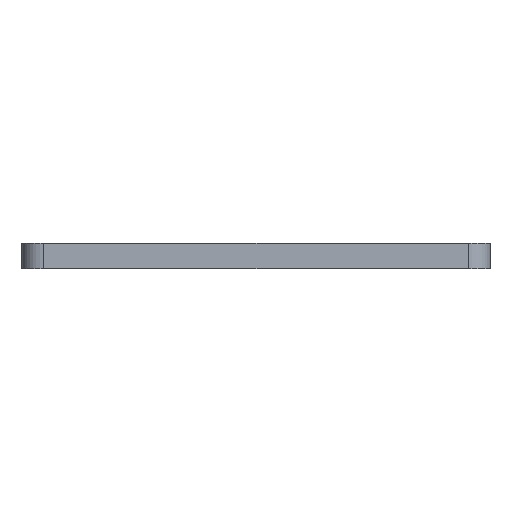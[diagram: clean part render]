
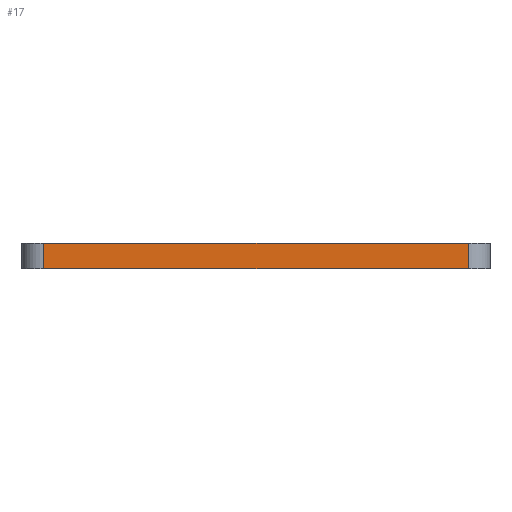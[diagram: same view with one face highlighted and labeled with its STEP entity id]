
A CAD part, left-side view. The second image highlights one B-rep face of the part: STEP entity #17.
In plain terms, the highlighted planar face has unit normal (-1, 0, 0).
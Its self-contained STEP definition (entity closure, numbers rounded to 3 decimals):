
#17 = ADVANCED_FACE('',(#18),#32,.F.);
#18 = FACE_BOUND('',#19,.F.);
#19 = EDGE_LOOP('',(#20,#55,#83,#111));
#20 = ORIENTED_EDGE('',*,*,#21,.F.);
#21 = EDGE_CURVE('',#22,#24,#26,.T.);
#22 = VERTEX_POINT('',#23);
#23 = CARTESIAN_POINT('',(0.,-62.,3.5));
#24 = VERTEX_POINT('',#25);
#25 = CARTESIAN_POINT('',(0.,-3.,3.5));
#26 = SURFACE_CURVE('',#27,(#31,#43),.PCURVE_S1.);
#27 = LINE('',#28,#29);
#28 = CARTESIAN_POINT('',(0.,-65.,3.5));
#29 = VECTOR('',#30,1.);
#30 = DIRECTION('',(0.,1.,0.));
#31 = PCURVE('',#32,#37);
#32 = PLANE('',#33);
#33 = AXIS2_PLACEMENT_3D('',#34,#35,#36);
#34 = CARTESIAN_POINT('',(0.,-65.,0.));
#35 = DIRECTION('',(1.,0.,0.));
#36 = DIRECTION('',(0.,0.,1.));
#37 = DEFINITIONAL_REPRESENTATION('',(#38),#42);
#38 = LINE('',#39,#40);
#39 = CARTESIAN_POINT('',(3.5,0.));
#40 = VECTOR('',#41,1.);
#41 = DIRECTION('',(0.,-1.));
#42 = ( GEOMETRIC_REPRESENTATION_CONTEXT(2) 
PARAMETRIC_REPRESENTATION_CONTEXT() REPRESENTATION_CONTEXT('2D SPACE',''
  ) );
#43 = PCURVE('',#44,#49);
#44 = PLANE('',#45);
#45 = AXIS2_PLACEMENT_3D('',#46,#47,#48);
#46 = CARTESIAN_POINT('',(0.,-65.,3.5));
#47 = DIRECTION('',(0.,0.,1.));
#48 = DIRECTION('',(1.,0.,0.));
#49 = DEFINITIONAL_REPRESENTATION('',(#50),#54);
#50 = LINE('',#51,#52);
#51 = CARTESIAN_POINT('',(0.,0.));
#52 = VECTOR('',#53,1.);
#53 = DIRECTION('',(0.,1.));
#54 = ( GEOMETRIC_REPRESENTATION_CONTEXT(2) 
PARAMETRIC_REPRESENTATION_CONTEXT() REPRESENTATION_CONTEXT('2D SPACE',''
  ) );
#55 = ORIENTED_EDGE('',*,*,#56,.F.);
#56 = EDGE_CURVE('',#57,#22,#59,.T.);
#57 = VERTEX_POINT('',#58);
#58 = CARTESIAN_POINT('',(0.,-62.,0.));
#59 = SURFACE_CURVE('',#60,(#64,#71),.PCURVE_S1.);
#60 = LINE('',#61,#62);
#61 = CARTESIAN_POINT('',(0.,-62.,0.));
#62 = VECTOR('',#63,1.);
#63 = DIRECTION('',(0.,0.,1.));
#64 = PCURVE('',#32,#65);
#65 = DEFINITIONAL_REPRESENTATION('',(#66),#70);
#66 = LINE('',#67,#68);
#67 = CARTESIAN_POINT('',(0.,-3.));
#68 = VECTOR('',#69,1.);
#69 = DIRECTION('',(1.,0.));
#70 = ( GEOMETRIC_REPRESENTATION_CONTEXT(2) 
PARAMETRIC_REPRESENTATION_CONTEXT() REPRESENTATION_CONTEXT('2D SPACE',''
  ) );
#71 = PCURVE('',#72,#77);
#72 = CYLINDRICAL_SURFACE('',#73,3.);
#73 = AXIS2_PLACEMENT_3D('',#74,#75,#76);
#74 = CARTESIAN_POINT('',(3.,-62.,0.));
#75 = DIRECTION('',(0.,0.,1.));
#76 = DIRECTION('',(-1.,-0.,0.));
#77 = DEFINITIONAL_REPRESENTATION('',(#78),#82);
#78 = LINE('',#79,#80);
#79 = CARTESIAN_POINT('',(0.,0.));
#80 = VECTOR('',#81,1.);
#81 = DIRECTION('',(0.,1.));
#82 = ( GEOMETRIC_REPRESENTATION_CONTEXT(2) 
PARAMETRIC_REPRESENTATION_CONTEXT() REPRESENTATION_CONTEXT('2D SPACE',''
  ) );
#83 = ORIENTED_EDGE('',*,*,#84,.T.);
#84 = EDGE_CURVE('',#57,#85,#87,.T.);
#85 = VERTEX_POINT('',#86);
#86 = CARTESIAN_POINT('',(0.,-3.,0.));
#87 = SURFACE_CURVE('',#88,(#92,#99),.PCURVE_S1.);
#88 = LINE('',#89,#90);
#89 = CARTESIAN_POINT('',(0.,-65.,0.));
#90 = VECTOR('',#91,1.);
#91 = DIRECTION('',(0.,1.,0.));
#92 = PCURVE('',#32,#93);
#93 = DEFINITIONAL_REPRESENTATION('',(#94),#98);
#94 = LINE('',#95,#96);
#95 = CARTESIAN_POINT('',(0.,0.));
#96 = VECTOR('',#97,1.);
#97 = DIRECTION('',(0.,-1.));
#98 = ( GEOMETRIC_REPRESENTATION_CONTEXT(2) 
PARAMETRIC_REPRESENTATION_CONTEXT() REPRESENTATION_CONTEXT('2D SPACE',''
  ) );
#99 = PCURVE('',#100,#105);
#100 = PLANE('',#101);
#101 = AXIS2_PLACEMENT_3D('',#102,#103,#104);
#102 = CARTESIAN_POINT('',(0.,-65.,0.));
#103 = DIRECTION('',(0.,0.,1.));
#104 = DIRECTION('',(1.,0.,0.));
#105 = DEFINITIONAL_REPRESENTATION('',(#106),#110);
#106 = LINE('',#107,#108);
#107 = CARTESIAN_POINT('',(0.,0.));
#108 = VECTOR('',#109,1.);
#109 = DIRECTION('',(0.,1.));
#110 = ( GEOMETRIC_REPRESENTATION_CONTEXT(2) 
PARAMETRIC_REPRESENTATION_CONTEXT() REPRESENTATION_CONTEXT('2D SPACE',''
  ) );
#111 = ORIENTED_EDGE('',*,*,#112,.T.);
#112 = EDGE_CURVE('',#85,#24,#113,.T.);
#113 = SURFACE_CURVE('',#114,(#118,#125),.PCURVE_S1.);
#114 = LINE('',#115,#116);
#115 = CARTESIAN_POINT('',(0.,-3.,0.));
#116 = VECTOR('',#117,1.);
#117 = DIRECTION('',(0.,0.,1.));
#118 = PCURVE('',#32,#119);
#119 = DEFINITIONAL_REPRESENTATION('',(#120),#124);
#120 = LINE('',#121,#122);
#121 = CARTESIAN_POINT('',(0.,-62.));
#122 = VECTOR('',#123,1.);
#123 = DIRECTION('',(1.,0.));
#124 = ( GEOMETRIC_REPRESENTATION_CONTEXT(2) 
PARAMETRIC_REPRESENTATION_CONTEXT() REPRESENTATION_CONTEXT('2D SPACE',''
  ) );
#125 = PCURVE('',#126,#131);
#126 = CYLINDRICAL_SURFACE('',#127,3.);
#127 = AXIS2_PLACEMENT_3D('',#128,#129,#130);
#128 = CARTESIAN_POINT('',(3.,-3.,0.));
#129 = DIRECTION('',(0.,0.,1.));
#130 = DIRECTION('',(-1.,-0.,0.));
#131 = DEFINITIONAL_REPRESENTATION('',(#132),#136);
#132 = LINE('',#133,#134);
#133 = CARTESIAN_POINT('',(-0.,0.));
#134 = VECTOR('',#135,1.);
#135 = DIRECTION('',(-0.,1.));
#136 = ( GEOMETRIC_REPRESENTATION_CONTEXT(2) 
PARAMETRIC_REPRESENTATION_CONTEXT() REPRESENTATION_CONTEXT('2D SPACE',''
  ) );
